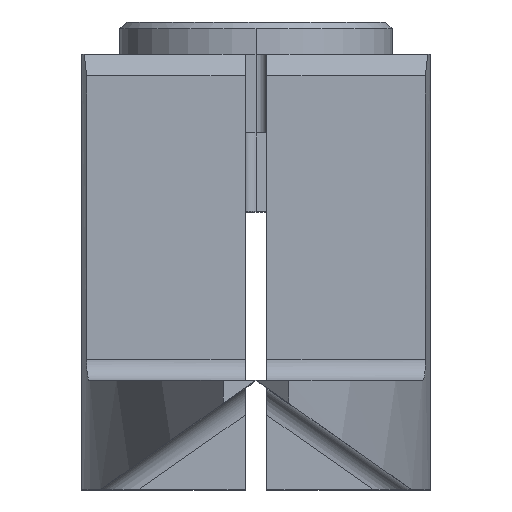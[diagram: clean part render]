
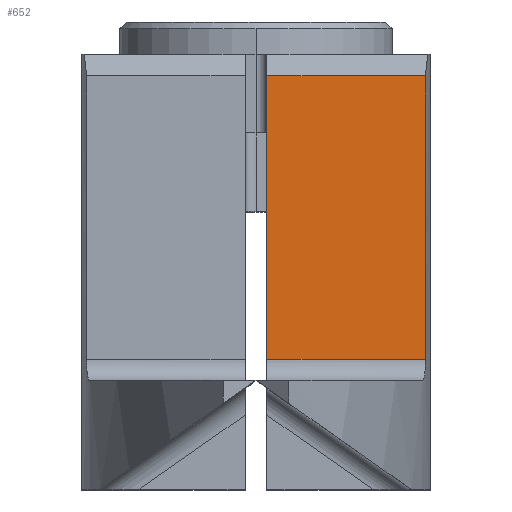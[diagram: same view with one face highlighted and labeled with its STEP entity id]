
A CAD part, top view. The second image highlights one B-rep face of the part: STEP entity #652.
In plain terms, the highlighted planar face has unit normal (0, 0, 1).
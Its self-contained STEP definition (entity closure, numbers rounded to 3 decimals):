
#47 = ORIENTED_EDGE ( 'NONE', *, *, #224, .F. ) ;
#224 = EDGE_CURVE ( 'NONE', #2385, #3292, #3116, .T. ) ;
#256 = VERTEX_POINT ( 'NONE', #3318 ) ;
#265 = DIRECTION ( 'NONE',  ( 1., 0., 0. ) ) ;
#333 = CARTESIAN_POINT ( 'NONE',  ( 7.777, 6.2, 18. ) ) ;
#652 = ADVANCED_FACE ( 'NONE', ( #3530 ), #791, .F. ) ;
#694 = EDGE_LOOP ( 'NONE', ( #1449, #2264, #3806, #47 ) ) ;
#791 = PLANE ( 'NONE',  #3987 ) ;
#804 = LINE ( 'NONE', #4342, #4205 ) ;
#1088 = CARTESIAN_POINT ( 'NONE',  ( 7.777, -2.8, 18. ) ) ;
#1132 = CARTESIAN_POINT ( 'NONE',  ( 4.139, -6.8, 18. ) ) ;
#1449 = ORIENTED_EDGE ( 'NONE', *, *, #4366, .F. ) ;
#1487 = EDGE_CURVE ( 'NONE', #256, #3229, #4124, .T. ) ;
#1565 = DIRECTION ( 'NONE',  ( 1., 0., 0. ) ) ;
#2264 = ORIENTED_EDGE ( 'NONE', *, *, #1487, .F. ) ;
#2385 = VERTEX_POINT ( 'NONE', #333 ) ;
#2407 = CARTESIAN_POINT ( 'NONE',  ( 0.5, -2.8, 18. ) ) ;
#2413 = DIRECTION ( 'NONE',  ( -1., 0., 0. ) ) ;
#2636 = CARTESIAN_POINT ( 'NONE',  ( 7.777, -6.8, 18. ) ) ;
#2671 = EDGE_CURVE ( 'NONE', #256, #3292, #3597, .T. ) ;
#2695 = VECTOR ( 'NONE', #1565, 1000. ) ;
#2946 = CARTESIAN_POINT ( 'NONE',  ( 0.5, 6.2, 18. ) ) ;
#3116 = LINE ( 'NONE', #1088, #3995 ) ;
#3153 = VECTOR ( 'NONE', #3276, 1000. ) ;
#3229 = VERTEX_POINT ( 'NONE', #2946 ) ;
#3276 = DIRECTION ( 'NONE',  ( 0., 1., 0. ) ) ;
#3292 = VERTEX_POINT ( 'NONE', #2636 ) ;
#3318 = CARTESIAN_POINT ( 'NONE',  ( 0.5, -6.8, 18. ) ) ;
#3528 = DIRECTION ( 'NONE',  ( 0., 0., -1. ) ) ;
#3530 = FACE_OUTER_BOUND ( 'NONE', #694, .T. ) ;
#3597 = LINE ( 'NONE', #1132, #2695 ) ;
#3713 = CARTESIAN_POINT ( 'NONE',  ( 7.777, -6.8, 18. ) ) ;
#3806 = ORIENTED_EDGE ( 'NONE', *, *, #2671, .T. ) ;
#3898 = DIRECTION ( 'NONE',  ( 0., -1., 0. ) ) ;
#3987 = AXIS2_PLACEMENT_3D ( 'NONE', #3713, #3528, #2413 ) ;
#3995 = VECTOR ( 'NONE', #3898, 1000. ) ;
#4124 = LINE ( 'NONE', #2407, #3153 ) ;
#4205 = VECTOR ( 'NONE', #265, 1000. ) ;
#4342 = CARTESIAN_POINT ( 'NONE',  ( 4.214, 6.2, 18. ) ) ;
#4366 = EDGE_CURVE ( 'NONE', #3229, #2385, #804, .T. ) ;
